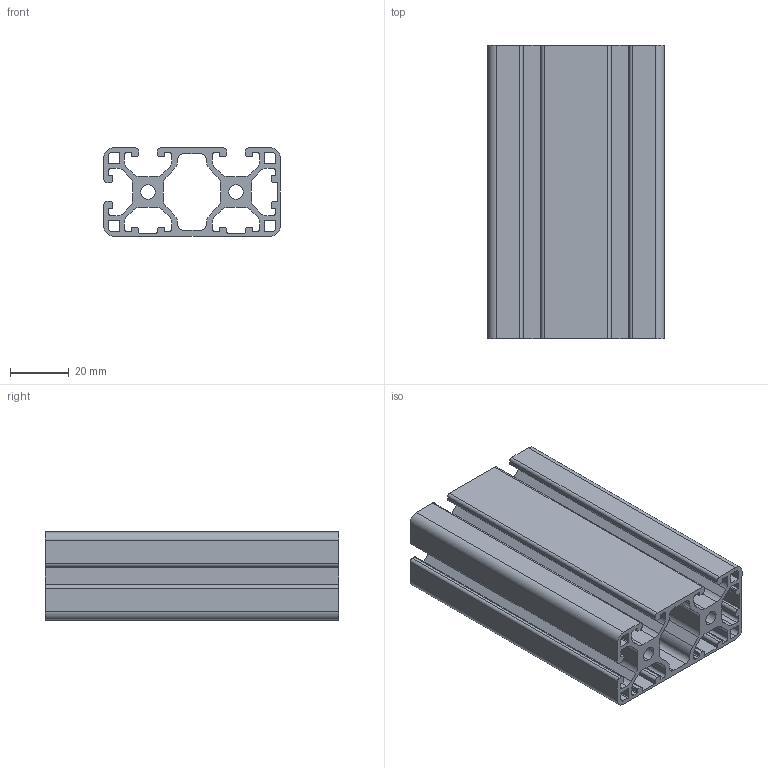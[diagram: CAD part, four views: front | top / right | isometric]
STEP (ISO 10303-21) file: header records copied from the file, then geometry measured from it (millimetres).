
FILE_DESCRIPTION (( 'STEP AP203' ), '1' );
FILE_NAME ('0106P6030-3NL90.STEP', '2024-02-27T14:17:00', ( 'Windows-Benutzer' ), ( '' ), 'SwSTEP 2.0', 'SolidWorks 2023', '' );
FILE_SCHEMA (( 'CONFIG_CONTROL_DESIGN' ));
Length unit declared in the file: millimetre
Products named in the file (1): 0106P6030-3NL90
Bounding box: 60 x 100 x 30 mm (x, y, z)
Volume: 62077.4 mm3; surface area: 60889.6 mm2
Topology: 1 solids, 1 shells, 238 faces, 708 edges, 472 vertices
Faces by surface type: cylinder 120, plane 118
Entity records: 8169 total; most frequent: DIRECTION 1426, CARTESIAN_POINT 1419, ORIENTED_EDGE 1416, EDGE_CURVE 708, AXIS2_PLACEMENT_3D 479, VERTEX_POINT 472, VECTOR 468, LINE 468
